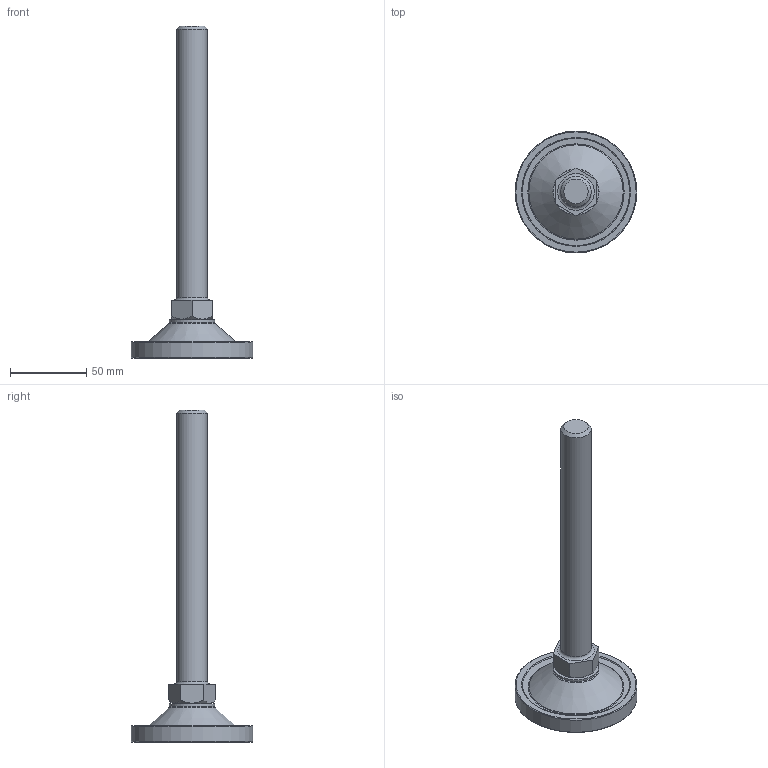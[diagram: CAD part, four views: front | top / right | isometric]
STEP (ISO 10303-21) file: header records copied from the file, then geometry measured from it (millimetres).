
FILE_DESCRIPTION(/* description */ (''),/* implementation_level */ '2;1');
FILE_NAME(/* name */ 'D:\조절자\PFR\PFR-M20-180L.stp',/* time_stamp */ '2016-03-14T15:08:51+09:00',/* author */ ('GS-DT-1-001'),/* organization */ (''),/* preprocessor_version */ 'ST-DEVELOPER v15.6',/* originating_system */ 'Autodesk Inventor LT ',/* authorisation */ '');
FILE_SCHEMA (('AUTOMOTIVE_DESIGN { 1 0 10303 214 3 1 1 }'));
Length unit declared in the file: millimetre
Products named in the file (1): PFR-M20-180L
Bounding box: 80 x 80 x 218 mm (x, y, z)
Volume: 109839.4 mm3; surface area: 41057.5 mm2
Topology: 4 solids, 4 shells, 71 faces, 132 edges, 81 vertices
Faces by surface type: plane 26, torus 24, cone 12, cylinder 9
Full cylindrical faces by diameter (mm): 5 x1, 7.153 x1, 8.2 x1, 8.8 x1, 20 x1, 30 x1, 74 x1, 74.4 x1, 80 x1
Entity records: 1509 total; most frequent: DIRECTION 282, CARTESIAN_POINT 240, ORIENTED_EDGE 162, AXIS2_PLACEMENT_3D 135, EDGE_LOOP 134, EDGE_CURVE 81, VERTEX_POINT 75, FACE_OUTER_BOUND 71
